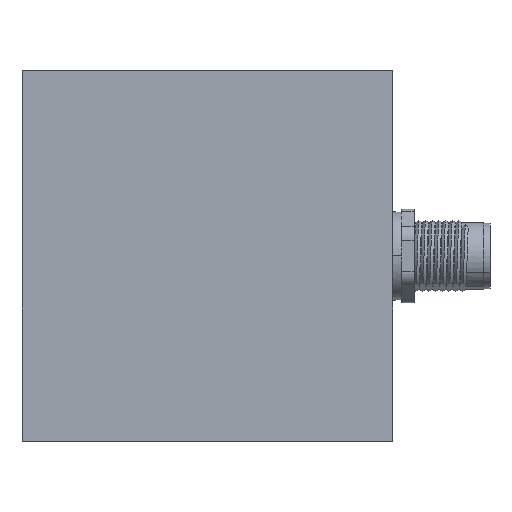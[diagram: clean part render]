
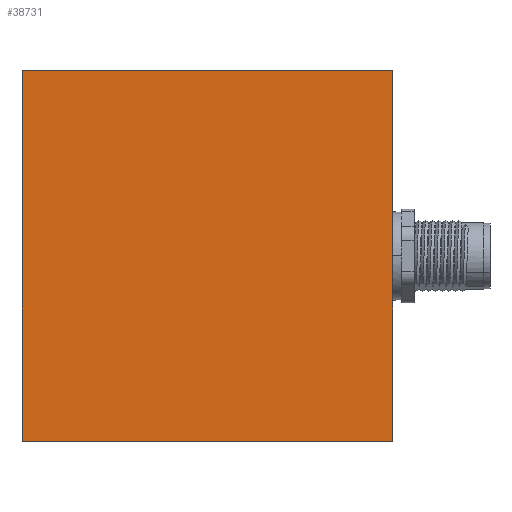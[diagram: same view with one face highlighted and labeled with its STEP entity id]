
A CAD part, top view. The second image highlights one B-rep face of the part: STEP entity #38731.
In plain terms, the highlighted planar face has unit normal (0, 0, 1).
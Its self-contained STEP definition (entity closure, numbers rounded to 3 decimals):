
#10498 = CARTESIAN_POINT ( 'NONE',  ( 30.184, 33.228, 1.424 ) ) ;
#10652 = CARTESIAN_POINT ( 'NONE',  ( 30.184, -27.772, 1.424 ) ) ;
#10691 = DIRECTION ( 'NONE',  ( 0., -1., 0. ) ) ;
#10692 = VECTOR ( 'NONE', #10691, 1000. ) ;
#10693 = CARTESIAN_POINT ( 'NONE',  ( 30.184, -27.772, 1.424 ) ) ;
#10694 = LINE ( 'NONE', #10693, #10692 ) ;
#10958 = FACE_OUTER_BOUND ( 'NONE', #38935, .T. ) ;
#10994 = DIRECTION ( 'NONE',  ( 0., -1., 0. ) ) ;
#10995 = DIRECTION ( 'NONE',  ( 0., 0., 1. ) ) ;
#10996 = CARTESIAN_POINT ( 'NONE',  ( -29.816, -22.772, 1.424 ) ) ;
#10997 = AXIS2_PLACEMENT_3D ( 'NONE', #10996, #10995, #10994 ) ;
#11000 = PLANE ( 'NONE',  #10997 ) ;
#11468 = DIRECTION ( 'NONE',  ( -1., 0., 0. ) ) ;
#11469 = VECTOR ( 'NONE', #11468, 1000. ) ;
#11470 = CARTESIAN_POINT ( 'NONE',  ( 25.184, -27.772, 1.424 ) ) ;
#11471 = LINE ( 'NONE', #11470, #11469 ) ;
#11472 = DIRECTION ( 'NONE',  ( 0., 1., 0. ) ) ;
#11473 = VECTOR ( 'NONE', #11472, 1000. ) ;
#11474 = CARTESIAN_POINT ( 'NONE',  ( -30.816, -22.772, 1.424 ) ) ;
#11475 = LINE ( 'NONE', #11474, #11473 ) ;
#11476 = CARTESIAN_POINT ( 'NONE',  ( -30.816, -27.772, 1.424 ) ) ;
#11477 = DIRECTION ( 'NONE',  ( 1., 0., 0. ) ) ;
#11478 = VECTOR ( 'NONE', #11477, 1000. ) ;
#11479 = CARTESIAN_POINT ( 'NONE',  ( -25.816, 33.228, 1.424 ) ) ;
#11480 = LINE ( 'NONE', #11479, #11478 ) ;
#11621 = CARTESIAN_POINT ( 'NONE',  ( -30.816, 33.228, 1.424 ) ) ;
#35260 = VERTEX_POINT ( 'NONE', #10498 ) ;
#36628 = VERTEX_POINT ( 'NONE', #10652 ) ;
#36707 = EDGE_CURVE ( 'NONE', #35260, #36628, #10694, .T. ) ;
#38731 = ADVANCED_FACE ( 'NONE', ( #10958 ), #11000, .T. ) ;
#38892 = EDGE_CURVE ( 'NONE', #38933, #35260, #11480, .T. ) ;
#38893 = VERTEX_POINT ( 'NONE', #11476 ) ;
#38894 = EDGE_CURVE ( 'NONE', #38893, #38933, #11475, .T. ) ;
#38895 = ORIENTED_EDGE ( 'NONE', *, *, #38894, .F. ) ;
#38896 = ORIENTED_EDGE ( 'NONE', *, *, #36707, .F. ) ;
#38897 = EDGE_CURVE ( 'NONE', #36628, #38893, #11471, .T. ) ;
#38909 = ORIENTED_EDGE ( 'NONE', *, *, #38897, .F. ) ;
#38933 = VERTEX_POINT ( 'NONE', #11621 ) ;
#38935 = EDGE_LOOP ( 'NONE', ( #38895, #38909, #38896, #38939 ) ) ;
#38939 = ORIENTED_EDGE ( 'NONE', *, *, #38892, .F. ) ;
